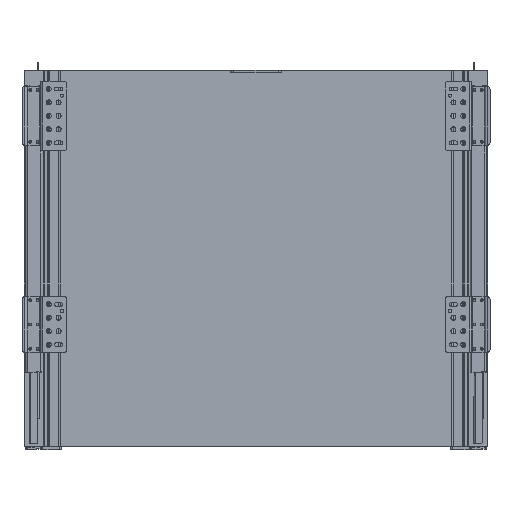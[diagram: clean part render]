
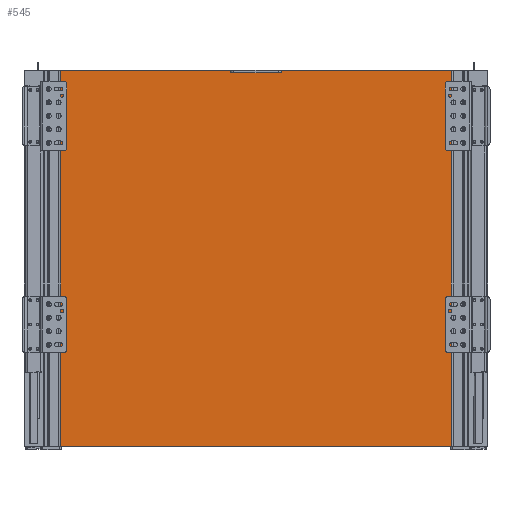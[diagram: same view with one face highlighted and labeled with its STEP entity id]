
A CAD part, front view. The second image highlights one B-rep face of the part: STEP entity #545.
In plain terms, the highlighted planar face has unit normal (0, -1, 0).
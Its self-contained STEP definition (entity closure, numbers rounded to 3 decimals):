
#114=DIRECTION('',(0.,0.,-1.));
#115=VECTOR('',#114,447.);
#116=CARTESIAN_POINT('',(-252.,0.,0.));
#117=LINE('',#116,#115);
#199=DIRECTION('',(0.,0.,-1.));
#200=VECTOR('',#199,2.8);
#201=CARTESIAN_POINT('',(30.,0.,0.));
#202=LINE('',#201,#200);
#203=DIRECTION('',(1.,0.,0.));
#204=VECTOR('',#203,60.);
#205=CARTESIAN_POINT('',(-30.,0.,-2.8));
#206=LINE('',#205,#204);
#207=DIRECTION('',(1.,0.,0.));
#208=VECTOR('',#207,222.);
#209=CARTESIAN_POINT('',(30.,0.,0.));
#210=LINE('',#209,#208);
#211=DIRECTION('',(0.,0.,-1.));
#212=VECTOR('',#211,447.);
#213=CARTESIAN_POINT('',(252.,0.,0.));
#214=LINE('',#213,#212);
#215=DIRECTION('',(1.,0.,0.));
#216=VECTOR('',#215,222.);
#217=CARTESIAN_POINT('',(-252.,0.,0.));
#218=LINE('',#217,#216);
#219=DIRECTION('',(0.,0.,-1.));
#220=VECTOR('',#219,2.8);
#221=CARTESIAN_POINT('',(-30.,0.,0.));
#222=LINE('',#221,#220);
#227=DIRECTION('',(1.,0.,0.));
#228=VECTOR('',#227,504.);
#229=CARTESIAN_POINT('',(-252.,0.,-447.));
#230=LINE('',#229,#228);
#253=CARTESIAN_POINT('',(30.,0.,-2.8));
#254=VERTEX_POINT('',#253);
#255=CARTESIAN_POINT('',(-30.,0.,-2.8));
#256=VERTEX_POINT('',#255);
#259=CARTESIAN_POINT('',(-30.,0.,0.));
#260=VERTEX_POINT('',#259);
#261=CARTESIAN_POINT('',(-252.,0.,0.));
#262=VERTEX_POINT('',#261);
#267=CARTESIAN_POINT('',(252.,0.,0.));
#268=VERTEX_POINT('',#267);
#269=CARTESIAN_POINT('',(30.,0.,0.));
#270=VERTEX_POINT('',#269);
#271=CARTESIAN_POINT('',(252.,0.,-447.));
#272=VERTEX_POINT('',#271);
#273=CARTESIAN_POINT('',(-252.,0.,-447.));
#274=VERTEX_POINT('',#273);
#528=CARTESIAN_POINT('',(-252.,0.,0.));
#529=DIRECTION('',(0.,-1.,0.));
#530=DIRECTION('',(1.,0.,0.));
#531=AXIS2_PLACEMENT_3D('',#528,#529,#530);
#532=PLANE('',#531);
#533=ORIENTED_EDGE('',*,*,#482,.T.);
#534=ORIENTED_EDGE('',*,*,#522,.F.);
#535=ORIENTED_EDGE('',*,*,#444,.T.);
#536=ORIENTED_EDGE('',*,*,#341,.T.);
#538=ORIENTED_EDGE('',*,*,#537,.F.);
#539=ORIENTED_EDGE('',*,*,#382,.F.);
#540=ORIENTED_EDGE('',*,*,#439,.T.);
#542=ORIENTED_EDGE('',*,*,#541,.T.);
#543=EDGE_LOOP('',(#533,#534,#535,#536,#538,#539,#540,#542));
#544=FACE_OUTER_BOUND('',#543,.F.);
#341=EDGE_CURVE('',#268,#272,#214,.T.);
#382=EDGE_CURVE('',#262,#274,#117,.T.);
#439=EDGE_CURVE('',#262,#260,#218,.T.);
#444=EDGE_CURVE('',#270,#268,#210,.T.);
#482=EDGE_CURVE('',#256,#254,#206,.T.);
#522=EDGE_CURVE('',#270,#254,#202,.T.);
#537=EDGE_CURVE('',#274,#272,#230,.T.);
#541=EDGE_CURVE('',#260,#256,#222,.T.);
#545=ADVANCED_FACE('',(#544),#532,.T.);
